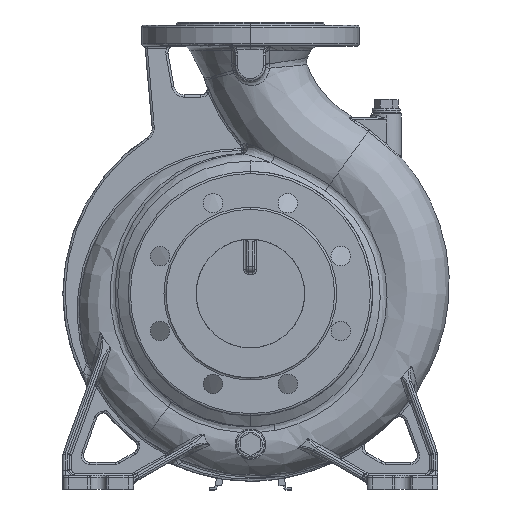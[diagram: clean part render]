
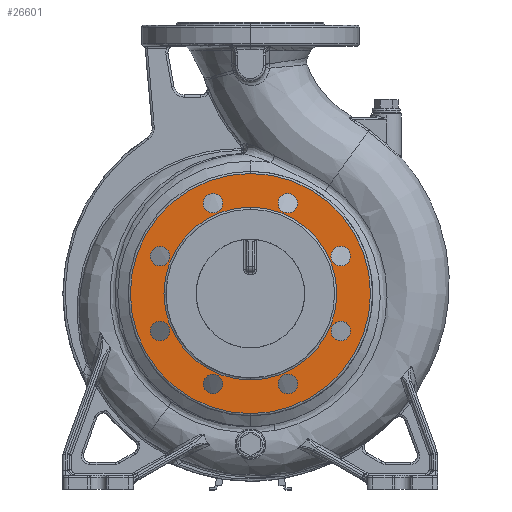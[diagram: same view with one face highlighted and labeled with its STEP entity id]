
A CAD part, top view. The second image highlights one B-rep face of the part: STEP entity #26601.
In plain terms, the highlighted planar face has unit normal (0, 0, 1).
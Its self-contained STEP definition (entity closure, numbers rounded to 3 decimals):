
#8202=CARTESIAN_POINT('',(0.,0.,122.));
#8203=DIRECTION('',(0.,0.,-1.));
#8204=DIRECTION('',(0.,-1.,0.));
#8205=AXIS2_PLACEMENT_3D('',#8202,#8203,#8204);
#8207=CARTESIAN_POINT('',(0.,0.,122.));
#8208=DIRECTION('',(0.,0.,-1.));
#8209=DIRECTION('',(0.,1.,0.));
#8210=AXIS2_PLACEMENT_3D('',#8207,#8208,#8209);
#8212=CARTESIAN_POINT('',(0.,0.,122.));
#8213=DIRECTION('',(0.,0.,1.));
#8214=DIRECTION('',(0.,1.,0.));
#8215=AXIS2_PLACEMENT_3D('',#8212,#8213,#8214);
#8217=CARTESIAN_POINT('',(0.,0.,122.));
#8218=DIRECTION('',(0.,0.,1.));
#8219=DIRECTION('',(0.,-1.,0.));
#8220=AXIS2_PLACEMENT_3D('',#8217,#8218,#8219);
#8222=CARTESIAN_POINT('',(-34.442,83.149,122.));
#8223=DIRECTION('',(0.,0.,1.));
#8224=DIRECTION('',(1.,0.,0.));
#8225=AXIS2_PLACEMENT_3D('',#8222,#8223,#8224);
#8227=CARTESIAN_POINT('',(-34.442,83.149,122.));
#8228=DIRECTION('',(0.,0.,1.));
#8229=DIRECTION('',(-1.,0.,0.));
#8230=AXIS2_PLACEMENT_3D('',#8227,#8228,#8229);
#8232=CARTESIAN_POINT('',(-83.149,34.442,122.));
#8233=DIRECTION('',(0.,0.,1.));
#8234=DIRECTION('',(0.707,0.707,0.));
#8235=AXIS2_PLACEMENT_3D('',#8232,#8233,#8234);
#8237=CARTESIAN_POINT('',(-83.149,34.442,122.));
#8238=DIRECTION('',(0.,0.,1.));
#8239=DIRECTION('',(-0.707,-0.707,0.));
#8240=AXIS2_PLACEMENT_3D('',#8237,#8238,#8239);
#8242=CARTESIAN_POINT('',(-83.149,-34.442,122.));
#8243=DIRECTION('',(0.,0.,1.));
#8244=DIRECTION('',(0.,1.,0.));
#8245=AXIS2_PLACEMENT_3D('',#8242,#8243,#8244);
#8247=CARTESIAN_POINT('',(-83.149,-34.442,122.));
#8248=DIRECTION('',(0.,0.,1.));
#8249=DIRECTION('',(0.,-1.,0.));
#8250=AXIS2_PLACEMENT_3D('',#8247,#8248,#8249);
#8252=CARTESIAN_POINT('',(-34.442,-83.149,122.));
#8253=DIRECTION('',(0.,0.,1.));
#8254=DIRECTION('',(-0.707,0.707,0.));
#8255=AXIS2_PLACEMENT_3D('',#8252,#8253,#8254);
#8257=CARTESIAN_POINT('',(-34.442,-83.149,122.));
#8258=DIRECTION('',(0.,0.,1.));
#8259=DIRECTION('',(0.707,-0.707,0.));
#8260=AXIS2_PLACEMENT_3D('',#8257,#8258,#8259);
#8262=CARTESIAN_POINT('',(34.442,-83.149,122.));
#8263=DIRECTION('',(0.,0.,1.));
#8264=DIRECTION('',(-1.,0.,0.));
#8265=AXIS2_PLACEMENT_3D('',#8262,#8263,#8264);
#8267=CARTESIAN_POINT('',(34.442,-83.149,122.));
#8268=DIRECTION('',(0.,0.,1.));
#8269=DIRECTION('',(1.,0.,0.));
#8270=AXIS2_PLACEMENT_3D('',#8267,#8268,#8269);
#8272=CARTESIAN_POINT('',(83.149,-34.442,122.));
#8273=DIRECTION('',(0.,0.,1.));
#8274=DIRECTION('',(-0.707,-0.707,0.));
#8275=AXIS2_PLACEMENT_3D('',#8272,#8273,#8274);
#8277=CARTESIAN_POINT('',(83.149,-34.442,122.));
#8278=DIRECTION('',(0.,0.,1.));
#8279=DIRECTION('',(0.707,0.707,0.));
#8280=AXIS2_PLACEMENT_3D('',#8277,#8278,#8279);
#8282=CARTESIAN_POINT('',(83.149,34.442,122.));
#8283=DIRECTION('',(0.,0.,1.));
#8284=DIRECTION('',(0.,-1.,0.));
#8285=AXIS2_PLACEMENT_3D('',#8282,#8283,#8284);
#8287=CARTESIAN_POINT('',(83.149,34.442,122.));
#8288=DIRECTION('',(0.,0.,1.));
#8289=DIRECTION('',(0.,1.,0.));
#8290=AXIS2_PLACEMENT_3D('',#8287,#8288,#8289);
#8292=CARTESIAN_POINT('',(34.442,83.149,122.));
#8293=DIRECTION('',(0.,0.,1.));
#8294=DIRECTION('',(0.707,-0.707,0.));
#8295=AXIS2_PLACEMENT_3D('',#8292,#8293,#8294);
#8297=CARTESIAN_POINT('',(34.442,83.149,122.));
#8298=DIRECTION('',(0.,0.,1.));
#8299=DIRECTION('',(-0.707,0.707,0.));
#8300=AXIS2_PLACEMENT_3D('',#8297,#8298,#8299);
#9268=CARTESIAN_POINT('',(0.,-79.5,122.));
#9269=CARTESIAN_POINT('',(0.,79.5,122.));
#9270=VERTEX_POINT('',#9268);
#9271=VERTEX_POINT('',#9269);
#9272=CARTESIAN_POINT('',(0.,110.5,122.));
#9273=CARTESIAN_POINT('',(0.,-110.5,122.));
#9274=VERTEX_POINT('',#9272);
#9275=VERTEX_POINT('',#9273);
#9340=CARTESIAN_POINT('',(-25.442,83.149,122.));
#9341=CARTESIAN_POINT('',(-43.442,83.149,122.));
#9342=VERTEX_POINT('',#9340);
#9343=VERTEX_POINT('',#9341);
#9348=CARTESIAN_POINT('',(-76.785,40.805,122.));
#9349=CARTESIAN_POINT('',(-89.513,28.078,122.));
#9350=VERTEX_POINT('',#9348);
#9351=VERTEX_POINT('',#9349);
#9356=CARTESIAN_POINT('',(-83.149,-25.442,122.));
#9357=CARTESIAN_POINT('',(-83.149,-43.442,122.));
#9358=VERTEX_POINT('',#9356);
#9359=VERTEX_POINT('',#9357);
#9364=CARTESIAN_POINT('',(-40.805,-76.785,122.));
#9365=CARTESIAN_POINT('',(-28.078,-89.513,122.));
#9366=VERTEX_POINT('',#9364);
#9367=VERTEX_POINT('',#9365);
#9372=CARTESIAN_POINT('',(25.442,-83.149,122.));
#9373=CARTESIAN_POINT('',(43.442,-83.149,122.));
#9374=VERTEX_POINT('',#9372);
#9375=VERTEX_POINT('',#9373);
#9380=CARTESIAN_POINT('',(76.785,-40.805,122.));
#9381=CARTESIAN_POINT('',(89.513,-28.078,122.));
#9382=VERTEX_POINT('',#9380);
#9383=VERTEX_POINT('',#9381);
#9388=CARTESIAN_POINT('',(83.149,25.442,122.));
#9389=CARTESIAN_POINT('',(83.149,43.442,122.));
#9390=VERTEX_POINT('',#9388);
#9391=VERTEX_POINT('',#9389);
#9396=CARTESIAN_POINT('',(40.805,76.785,122.));
#9397=CARTESIAN_POINT('',(28.078,89.513,122.));
#9398=VERTEX_POINT('',#9396);
#9399=VERTEX_POINT('',#9397);
#26537=CARTESIAN_POINT('',(0.,0.,122.));
#26538=DIRECTION('',(0.,0.,-1.));
#26539=DIRECTION('',(0.,-1.,0.));
#26540=AXIS2_PLACEMENT_3D('',#26537,#26538,#26539);
#26541=PLANE('',#26540);
#26543=ORIENTED_EDGE('',*,*,#26542,.F.);
#26545=ORIENTED_EDGE('',*,*,#26544,.F.);
#26546=EDGE_LOOP('',(#26543,#26545));
#26547=FACE_OUTER_BOUND('',#26546,.F.);
#26549=ORIENTED_EDGE('',*,*,#26548,.F.);
#26551=ORIENTED_EDGE('',*,*,#26550,.F.);
#26552=EDGE_LOOP('',(#26549,#26551));
#26553=FACE_BOUND('',#26552,.F.);
#26554=ORIENTED_EDGE('',*,*,#26527,.T.);
#26556=ORIENTED_EDGE('',*,*,#26555,.T.);
#26557=EDGE_LOOP('',(#26554,#26556));
#26558=FACE_BOUND('',#26557,.F.);
#26560=ORIENTED_EDGE('',*,*,#26559,.T.);
#26562=ORIENTED_EDGE('',*,*,#26561,.T.);
#26563=EDGE_LOOP('',(#26560,#26562));
#26564=FACE_BOUND('',#26563,.F.);
#26566=ORIENTED_EDGE('',*,*,#26565,.T.);
#26568=ORIENTED_EDGE('',*,*,#26567,.T.);
#26569=EDGE_LOOP('',(#26566,#26568));
#26570=FACE_BOUND('',#26569,.F.);
#26572=ORIENTED_EDGE('',*,*,#26571,.T.);
#26574=ORIENTED_EDGE('',*,*,#26573,.T.);
#26575=EDGE_LOOP('',(#26572,#26574));
#26576=FACE_BOUND('',#26575,.F.);
#26578=ORIENTED_EDGE('',*,*,#26577,.T.);
#26580=ORIENTED_EDGE('',*,*,#26579,.T.);
#26581=EDGE_LOOP('',(#26578,#26580));
#26582=FACE_BOUND('',#26581,.F.);
#26584=ORIENTED_EDGE('',*,*,#26583,.T.);
#26586=ORIENTED_EDGE('',*,*,#26585,.T.);
#26587=EDGE_LOOP('',(#26584,#26586));
#26588=FACE_BOUND('',#26587,.F.);
#26590=ORIENTED_EDGE('',*,*,#26589,.T.);
#26592=ORIENTED_EDGE('',*,*,#26591,.T.);
#26593=EDGE_LOOP('',(#26590,#26592));
#26594=FACE_BOUND('',#26593,.F.);
#26596=ORIENTED_EDGE('',*,*,#26595,.T.);
#26598=ORIENTED_EDGE('',*,*,#26597,.T.);
#26599=EDGE_LOOP('',(#26596,#26598));
#26600=FACE_BOUND('',#26599,.F.);
#26601=ADVANCED_FACE('',(#26547,#26553,#26558,#26564,#26570,#26576,#26582,
#26588,#26594,#26600),#26541,.F.);
#8206=CIRCLE('',#8205,79.5);
#8211=CIRCLE('',#8210,79.5);
#8216=CIRCLE('',#8215,110.5);
#8221=CIRCLE('',#8220,110.5);
#8226=CIRCLE('',#8225,9.);
#8231=CIRCLE('',#8230,9.);
#8236=CIRCLE('',#8235,9.);
#8241=CIRCLE('',#8240,9.);
#8246=CIRCLE('',#8245,9.);
#8251=CIRCLE('',#8250,9.);
#8256=CIRCLE('',#8255,9.);
#8261=CIRCLE('',#8260,9.);
#8266=CIRCLE('',#8265,9.);
#8271=CIRCLE('',#8270,9.);
#8276=CIRCLE('',#8275,9.);
#8281=CIRCLE('',#8280,9.);
#8286=CIRCLE('',#8285,9.);
#8291=CIRCLE('',#8290,9.);
#8296=CIRCLE('',#8295,9.);
#8301=CIRCLE('',#8300,9.);
#26527=EDGE_CURVE('',#9342,#9343,#8226,.T.);
#26542=EDGE_CURVE('',#9274,#9275,#8216,.T.);
#26544=EDGE_CURVE('',#9275,#9274,#8221,.T.);
#26548=EDGE_CURVE('',#9270,#9271,#8206,.T.);
#26550=EDGE_CURVE('',#9271,#9270,#8211,.T.);
#26555=EDGE_CURVE('',#9343,#9342,#8231,.T.);
#26559=EDGE_CURVE('',#9350,#9351,#8236,.T.);
#26561=EDGE_CURVE('',#9351,#9350,#8241,.T.);
#26565=EDGE_CURVE('',#9358,#9359,#8246,.T.);
#26567=EDGE_CURVE('',#9359,#9358,#8251,.T.);
#26571=EDGE_CURVE('',#9366,#9367,#8256,.T.);
#26573=EDGE_CURVE('',#9367,#9366,#8261,.T.);
#26577=EDGE_CURVE('',#9374,#9375,#8266,.T.);
#26579=EDGE_CURVE('',#9375,#9374,#8271,.T.);
#26583=EDGE_CURVE('',#9382,#9383,#8276,.T.);
#26585=EDGE_CURVE('',#9383,#9382,#8281,.T.);
#26589=EDGE_CURVE('',#9390,#9391,#8286,.T.);
#26591=EDGE_CURVE('',#9391,#9390,#8291,.T.);
#26595=EDGE_CURVE('',#9398,#9399,#8296,.T.);
#26597=EDGE_CURVE('',#9399,#9398,#8301,.T.);
